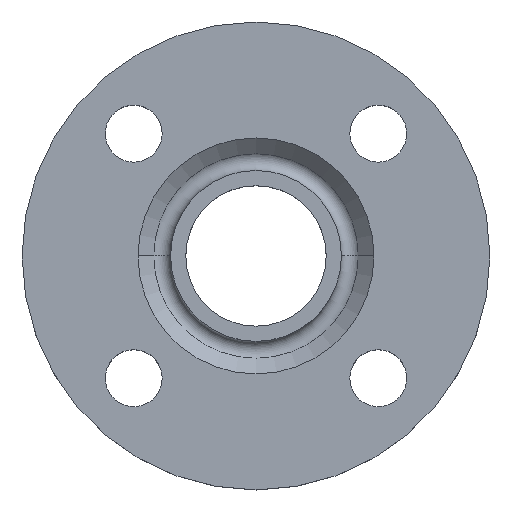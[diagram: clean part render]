
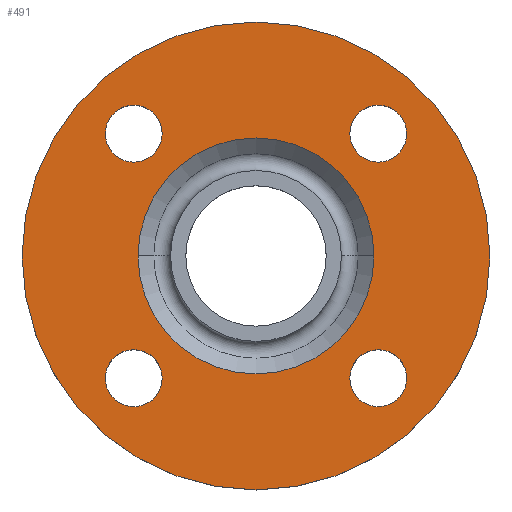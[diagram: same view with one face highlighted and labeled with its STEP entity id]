
A CAD part, top view. The second image highlights one B-rep face of the part: STEP entity #491.
In plain terms, the highlighted planar face has unit normal (0, 0, 1).
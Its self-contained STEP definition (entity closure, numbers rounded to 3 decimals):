
#3 = CIRCLE ( 'NONE', #179, 7. ) ;
#4 = AXIS2_PLACEMENT_3D ( 'NONE', #160, #152, #162 ) ;
#5 = EDGE_CURVE ( 'NONE', #366, #654, #515, .T. ) ;
#6 = CIRCLE ( 'NONE', #8, 7. ) ;
#8 = AXIS2_PLACEMENT_3D ( 'NONE', #161, #165, #164 ) ;
#9 = AXIS2_PLACEMENT_3D ( 'NONE', #108, #106, #105 ) ;
#21 = EDGE_CURVE ( 'NONE', #513, #657, #34, .T. ) ;
#25 = CIRCLE ( 'NONE', #173, 29. ) ;
#30 = AXIS2_PLACEMENT_3D ( 'NONE', #302, #303, #304 ) ;
#34 = CIRCLE ( 'NONE', #203, 7. ) ;
#58 = AXIS2_PLACEMENT_3D ( 'NONE', #133, #172, #213 ) ;
#68 = AXIS2_PLACEMENT_3D ( 'NONE', #74, #200, #171 ) ;
#73 = CIRCLE ( 'NONE', #58, 7. ) ;
#74 = CARTESIAN_POINT ( 'NONE',  ( 57.5, 0., -2. ) ) ;
#86 = CIRCLE ( 'NONE', #4, 57.5 ) ;
#99 = CIRCLE ( 'NONE', #30, 7. ) ;
#105 = DIRECTION ( 'NONE',  ( 1., 0., 0. ) ) ;
#106 = DIRECTION ( 'NONE',  ( 0., 0., -1. ) ) ;
#108 = CARTESIAN_POINT ( 'NONE',  ( 30.052, 30.052, -2. ) ) ;
#109 = CARTESIAN_POINT ( 'NONE',  ( -37.052, 30.052, -2. ) ) ;
#111 = CARTESIAN_POINT ( 'NONE',  ( -29., 0., -2. ) ) ;
#133 = CARTESIAN_POINT ( 'NONE',  ( -30.052, -30.052, -2. ) ) ;
#138 = CARTESIAN_POINT ( 'NONE',  ( 30.052, -30.052, -2. ) ) ;
#150 = DIRECTION ( 'NONE',  ( 0., 0., -1. ) ) ;
#152 = DIRECTION ( 'NONE',  ( 0., 0., -1. ) ) ;
#153 = DIRECTION ( 'NONE',  ( 1., 0., 0. ) ) ;
#159 = EDGE_CURVE ( 'NONE', #657, #513, #190, .T. ) ;
#160 = CARTESIAN_POINT ( 'NONE',  ( 0., 0., -2. ) ) ;
#161 = CARTESIAN_POINT ( 'NONE',  ( -30.052, -30.052, -2. ) ) ;
#162 = DIRECTION ( 'NONE',  ( -1., 0., 0. ) ) ;
#164 = DIRECTION ( 'NONE',  ( 1., 0., 0. ) ) ;
#165 = DIRECTION ( 'NONE',  ( 0., 0., -1. ) ) ;
#167 = AXIS2_PLACEMENT_3D ( 'NONE', #545, #548, #549 ) ;
#168 = CARTESIAN_POINT ( 'NONE',  ( -23.052, 30.052, -2. ) ) ;
#171 = DIRECTION ( 'NONE',  ( 1., 0., 0. ) ) ;
#172 = DIRECTION ( 'NONE',  ( 0., 0., -1. ) ) ;
#173 = AXIS2_PLACEMENT_3D ( 'NONE', #660, #661, #663 ) ;
#179 = AXIS2_PLACEMENT_3D ( 'NONE', #138, #150, #153 ) ;
#180 = PLANE ( 'NONE',  #68 ) ;
#190 = CIRCLE ( 'NONE', #191, 7. ) ;
#191 = AXIS2_PLACEMENT_3D ( 'NONE', #624, #625, #626 ) ;
#200 = DIRECTION ( 'NONE',  ( 0., 0., 1. ) ) ;
#203 = AXIS2_PLACEMENT_3D ( 'NONE', #559, #560, #561 ) ;
#204 = EDGE_CURVE ( 'NONE', #654, #366, #25, .T. ) ;
#213 = DIRECTION ( 'NONE',  ( 1., 0., 0. ) ) ;
#215 = FACE_BOUND ( 'NONE', #514, .T. ) ;
#216 = FACE_BOUND ( 'NONE', #374, .T. ) ;
#219 = FACE_BOUND ( 'NONE', #524, .T. ) ;
#221 = FACE_OUTER_BOUND ( 'NONE', #516, .T. ) ;
#222 = FACE_BOUND ( 'NONE', #522, .T. ) ;
#235 = CIRCLE ( 'NONE', #9, 7. ) ;
#271 = CARTESIAN_POINT ( 'NONE',  ( 0., 0., -2. ) ) ;
#273 = DIRECTION ( 'NONE',  ( 0., 0., -1. ) ) ;
#275 = DIRECTION ( 'NONE',  ( -1., 0., 0. ) ) ;
#295 = CARTESIAN_POINT ( 'NONE',  ( -23.052, -30.052, -2. ) ) ;
#296 = CARTESIAN_POINT ( 'NONE',  ( 23.052, 30.052, -2. ) ) ;
#297 = CARTESIAN_POINT ( 'NONE',  ( 29., 0., -2. ) ) ;
#302 = CARTESIAN_POINT ( 'NONE',  ( 30.052, -30.052, -2. ) ) ;
#303 = DIRECTION ( 'NONE',  ( 0., 0., -1. ) ) ;
#304 = DIRECTION ( 'NONE',  ( 1., 0., 0. ) ) ;
#306 = AXIS2_PLACEMENT_3D ( 'NONE', #271, #273, #275 ) ;
#310 = CARTESIAN_POINT ( 'NONE',  ( -37.052, -30.052, -2. ) ) ;
#313 = CARTESIAN_POINT ( 'NONE',  ( 23.052, -30.052, -2. ) ) ;
#324 = EDGE_CURVE ( 'NONE', #447, #456, #505, .T. ) ;
#338 = CARTESIAN_POINT ( 'NONE',  ( 30.052, 30.052, -2. ) ) ;
#339 = DIRECTION ( 'NONE',  ( 0., 0., -1. ) ) ;
#341 = DIRECTION ( 'NONE',  ( 1., 0., 0. ) ) ;
#345 = CARTESIAN_POINT ( 'NONE',  ( -57.5, 0., -2. ) ) ;
#346 = CARTESIAN_POINT ( 'NONE',  ( 37.052, -30.052, -2. ) ) ;
#348 = CARTESIAN_POINT ( 'NONE',  ( 57.5, 0., -2. ) ) ;
#364 = VERTEX_POINT ( 'NONE', #295 ) ;
#365 = VERTEX_POINT ( 'NONE', #296 ) ;
#366 = VERTEX_POINT ( 'NONE', #297 ) ;
#370 = EDGE_CURVE ( 'NONE', #451, #378, #99, .T. ) ;
#374 = EDGE_LOOP ( 'NONE', ( #439, #441 ) ) ;
#375 = VERTEX_POINT ( 'NONE', #310 ) ;
#378 = VERTEX_POINT ( 'NONE', #313 ) ;
#398 = CIRCLE ( 'NONE', #636, 7. ) ;
#430 = EDGE_CURVE ( 'NONE', #365, #466, #398, .T. ) ;
#431 = ORIENTED_EDGE ( 'NONE', *, *, #370, .T. ) ;
#432 = ORIENTED_EDGE ( 'NONE', *, *, #565, .T. ) ;
#433 = ORIENTED_EDGE ( 'NONE', *, *, #611, .T. ) ;
#434 = ORIENTED_EDGE ( 'NONE', *, *, #501, .T. ) ;
#435 = ORIENTED_EDGE ( 'NONE', *, *, #21, .T. ) ;
#436 = ORIENTED_EDGE ( 'NONE', *, *, #159, .T. ) ;
#437 = ORIENTED_EDGE ( 'NONE', *, *, #683, .T. ) ;
#438 = ORIENTED_EDGE ( 'NONE', *, *, #430, .T. ) ;
#439 = ORIENTED_EDGE ( 'NONE', *, *, #5, .T. ) ;
#440 = EDGE_LOOP ( 'NONE', ( #431, #432 ) ) ;
#441 = ORIENTED_EDGE ( 'NONE', *, *, #204, .T. ) ;
#442 = ORIENTED_EDGE ( 'NONE', *, *, #607, .F. ) ;
#444 = ORIENTED_EDGE ( 'NONE', *, *, #324, .F. ) ;
#447 = VERTEX_POINT ( 'NONE', #345 ) ;
#451 = VERTEX_POINT ( 'NONE', #346 ) ;
#456 = VERTEX_POINT ( 'NONE', #348 ) ;
#466 = VERTEX_POINT ( 'NONE', #568 ) ;
#491 = ADVANCED_FACE ( 'NONE', ( #645, #219, #215, #222, #216, #221 ), #180, .T. ) ;
#501 = EDGE_CURVE ( 'NONE', #375, #364, #73, .T. ) ;
#505 = CIRCLE ( 'NONE', #306, 57.5 ) ;
#513 = VERTEX_POINT ( 'NONE', #168 ) ;
#514 = EDGE_LOOP ( 'NONE', ( #435, #436 ) ) ;
#515 = CIRCLE ( 'NONE', #167, 29. ) ;
#516 = EDGE_LOOP ( 'NONE', ( #442, #444 ) ) ;
#522 = EDGE_LOOP ( 'NONE', ( #437, #438 ) ) ;
#524 = EDGE_LOOP ( 'NONE', ( #433, #434 ) ) ;
#545 = CARTESIAN_POINT ( 'NONE',  ( 0., 0., -2. ) ) ;
#548 = DIRECTION ( 'NONE',  ( 0., 0., -1. ) ) ;
#549 = DIRECTION ( 'NONE',  ( -1., 0., 0. ) ) ;
#559 = CARTESIAN_POINT ( 'NONE',  ( -30.052, 30.052, -2. ) ) ;
#560 = DIRECTION ( 'NONE',  ( 0., 0., -1. ) ) ;
#561 = DIRECTION ( 'NONE',  ( 1., 0., 0. ) ) ;
#565 = EDGE_CURVE ( 'NONE', #378, #451, #3, .T. ) ;
#568 = CARTESIAN_POINT ( 'NONE',  ( 37.052, 30.052, -2. ) ) ;
#607 = EDGE_CURVE ( 'NONE', #456, #447, #86, .T. ) ;
#611 = EDGE_CURVE ( 'NONE', #364, #375, #6, .T. ) ;
#624 = CARTESIAN_POINT ( 'NONE',  ( -30.052, 30.052, -2. ) ) ;
#625 = DIRECTION ( 'NONE',  ( 0., 0., -1. ) ) ;
#626 = DIRECTION ( 'NONE',  ( 1., 0., 0. ) ) ;
#636 = AXIS2_PLACEMENT_3D ( 'NONE', #338, #339, #341 ) ;
#645 = FACE_BOUND ( 'NONE', #440, .T. ) ;
#654 = VERTEX_POINT ( 'NONE', #111 ) ;
#657 = VERTEX_POINT ( 'NONE', #109 ) ;
#660 = CARTESIAN_POINT ( 'NONE',  ( 0., 0., -2. ) ) ;
#661 = DIRECTION ( 'NONE',  ( 0., 0., -1. ) ) ;
#663 = DIRECTION ( 'NONE',  ( -1., 0., 0. ) ) ;
#683 = EDGE_CURVE ( 'NONE', #466, #365, #235, .T. ) ;
